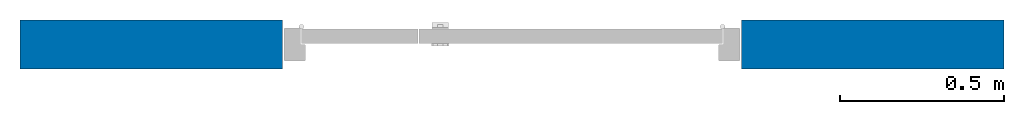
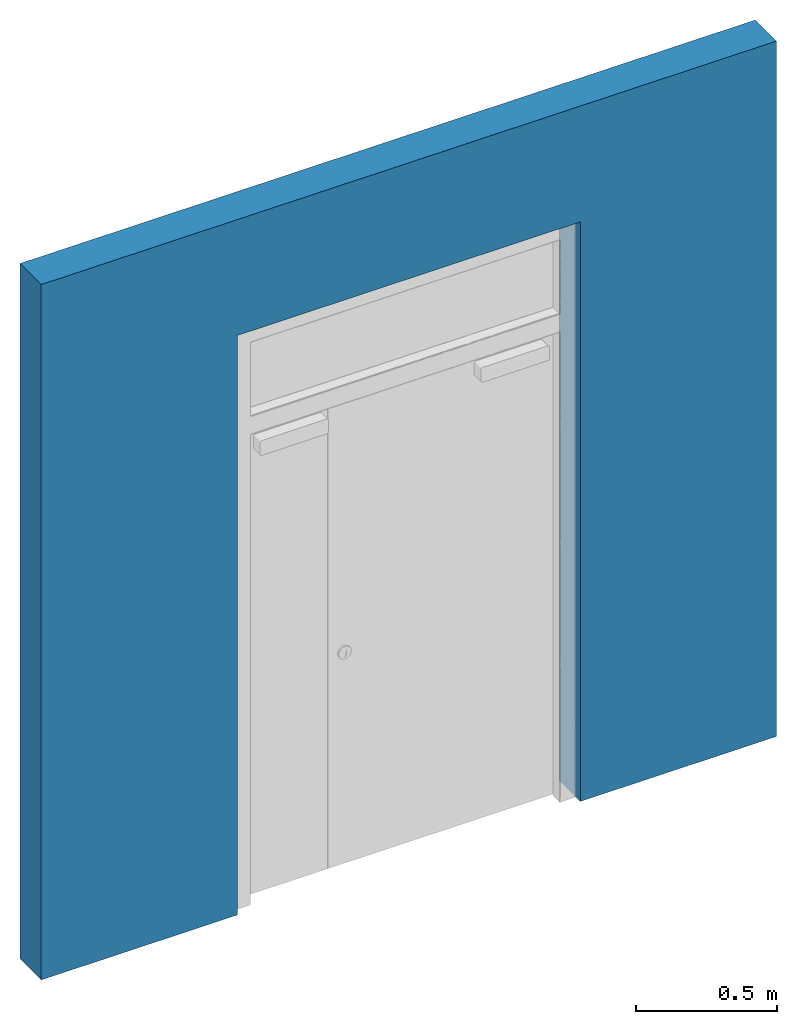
# One storey, incomplete: 1 wall, 1 opening.
"""IFC2X3 building model written with IfcOpenShell, lengths in millimetres."""

from ifc_helpers import new_model, entity, si_unit, converted_unit, derived_unit, direction, frame, frame_2d, origin, place, context, subcontext, project, spatial, rectangle, extrude, material, layer, layer_set, layer_usage, type_object, element, save


model = new_model("IFC2X3")

# Units and contexts
model_context = context("Model", 3, precision=0.01, world=origin(), true_north=direction((6.12303176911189e-17, 1.0)))
body_context = subcontext(model_context, "Body", "Model", "MODEL_VIEW")
ifc_project = project(units=[si_unit("LENGTHUNIT", "METRE", prefix="MILLI"), si_unit("AREAUNIT", "SQUARE_METRE"), si_unit("VOLUMEUNIT", "CUBIC_METRE"), converted_unit("PLANEANGLEUNIT", "DEGREE", entity("IfcRatioMeasure", 0.0174532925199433), si_unit("PLANEANGLEUNIT", "RADIAN"), dimensions=[0, 0, 0, 0, 0, 0, 0]), si_unit("MASSUNIT", "GRAM", prefix="KILO"), si_unit("TIMEUNIT", "SECOND"), si_unit("FREQUENCYUNIT", "HERTZ"), si_unit("THERMODYNAMICTEMPERATUREUNIT", "DEGREE_CELSIUS"), derived_unit("THERMALTRANSMITTANCEUNIT", [(si_unit("MASSUNIT", "GRAM", prefix="KILO"), 1), (si_unit("THERMODYNAMICTEMPERATUREUNIT", "KELVIN"), -1), (si_unit("TIMEUNIT", "SECOND"), -3)]), derived_unit("VOLUMETRICFLOWRATEUNIT", [(si_unit("LENGTHUNIT", "METRE"), 3), (si_unit("TIMEUNIT", "SECOND"), -1)]), si_unit("ELECTRICCURRENTUNIT", "AMPERE"), si_unit("ELECTRICVOLTAGEUNIT", "VOLT"), si_unit("POWERUNIT", "WATT"), si_unit("FORCEUNIT", "NEWTON", prefix="KILO"), si_unit("ILLUMINANCEUNIT", "LUX"), si_unit("LUMINOUSFLUXUNIT", "LUMEN"), si_unit("LUMINOUSINTENSITYUNIT", "CANDELA"), si_unit("PRESSUREUNIT", "PASCAL")], contexts=[model_context])

# Site, building, storey
site_placement = place(None, origin())
site = spatial("IfcSite", under=ifc_project, at=site_placement, Name="Default", CompositionType="ELEMENT")
building_placement = place(site_placement, origin())
building = spatial("IfcBuilding", under=site, at=building_placement, CompositionType="ELEMENT")
storey_placement = place(building_placement, origin())
storey = spatial("IfcBuildingStorey", under=building, at=storey_placement, Name="Level 1", CompositionType="ELEMENT", Elevation=0.0)

# Wall, opening
ifc_material = material(Name="nbl_Concept")
ifc_layer = layer(ifc_material, 150.0)
ifc_layer_set = layer_set([ifc_layer], Name="Basic Wall:NBS_Int_Concept")
ifc_layer_usage = layer_usage(ifc_layer_set, "AXIS2", "POSITIVE", -75.0)
wall_type = type_object("IfcWallType", Name="Basic Wall:NBS_Int_Concept", PredefinedType="STANDARD", material=ifc_layer_set)
wall_placement = place(storey_placement, frame((-1500.0, 0.0, 0.0)))
wall = element("IfcWallStandardCase", 1, at=wall_placement, inside=storey, type_object=wall_type, material=ifc_layer_usage, Name="Basic Wall:NBS_Int_Concept:2301", ObjectType="Basic Wall:NBS_Int_Concept:2340", context=body_context, shape_type="SweptSolid", body=[
    extrude(rectangle(XDim=3000.0, YDim=150.0, at=frame_2d((1500.0, 0.0), x_axis=(-1.0, 0.0))), origin(), (0.0, 0.0, 1.0), 3000.0),
])
opening_placement = place(wall_placement, frame((800.0, -75.0, 0.0)))
element("IfcOpeningElement", 2, at=opening_placement, cuts=wall, Name="NBS_AssaAbloyLtd_DrsetSym_AASDMetalPlantRoomDoor_Unequal-OverheadPanel:1400x2500mm:1", ObjectType="Opening", context=body_context, shape_type="SweptSolid", body=[
    extrude(rectangle(XDim=2500.0, YDim=1400.0, at=frame_2d((1250.0, 700.0), x_axis=(1.0, 0.0))), frame((0.0, 0.0, 0.0), z_axis=(0.0, 1.0, 0.0), x_axis=(0.0, 0.0, 1.0)), (0.0, 0.0, 1.0), 150.0),
])

save(model, "model.ifc")
